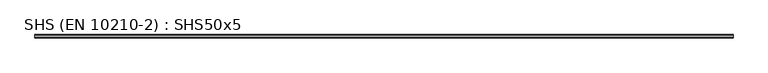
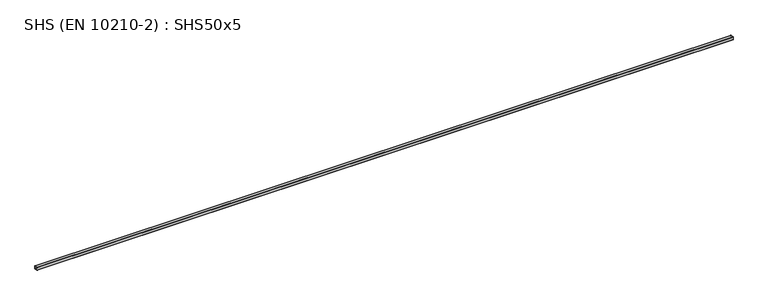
"""IFC4 building model written with IfcOpenShell, lengths in millimetres: beam geometry, SHS (EN 10210-2) : SHS50x5."""

from ifc_helpers import new_model, si_unit, point, frame, frame_2d, origin, place, context, project, spatial, polyline, circle_curve, trimmed, segment, composite_curve, outline, extrude, source, transform, mapped, element, save


def shs_en_10210_2_shs50x5_e16ab194(model_context):
    return source(origin(), model_context, "Body", "SweptSolid", [
        extrude(outline(composite_curve([segment(polyline([(25.0, 17.5), (25.0, -17.5)]), True, "CONTINUOUS"), segment(trimmed(circle_curve(frame_2d((17.5, -17.5)), 7.5), [point((25.0, -17.5))], [point((17.5, -25.0))], False, "CARTESIAN"), True, "CONTINUOUS"), segment(polyline([(17.5, -25.0), (-17.5, -25.0)]), True, "CONTINUOUS"), segment(trimmed(circle_curve(frame_2d((-17.5, -17.5)), 7.5), [point((-17.5, -25.0))], [point((-25.0, -17.5))], False, "CARTESIAN"), True, "CONTINUOUS"), segment(polyline([(-25.0, -17.5), (-25.0, 17.5)]), True, "CONTINUOUS"), segment(trimmed(circle_curve(frame_2d((-17.5, 17.5)), 7.5), [point((-25.0, 17.5))], [point((-17.5, 25.0))], False, "CARTESIAN"), True, "CONTINUOUS"), segment(polyline([(-17.5, 25.0), (17.5, 25.0)]), True, "CONTINUOUS"), segment(trimmed(circle_curve(frame_2d((17.5, 17.5)), 7.5), [point((17.5, 25.0))], [point((25.0, 17.5))], False, "CARTESIAN"), True, "CONTINUOUS")], self_intersect=False), holes=[composite_curve([segment(trimmed(circle_curve(frame_2d((-15.0, 15.0)), 5.0), [point((-15.0, 20.0))], [point((-20.0, 15.0))], True, "CARTESIAN"), True, "CONTINUOUS"), segment(polyline([(-20.0, 15.0), (-20.0, -15.0)]), True, "CONTINUOUS"), segment(trimmed(circle_curve(frame_2d((-15.0, -15.0)), 5.0), [point((-20.0, -15.0))], [point((-15.0, -20.0))], True, "CARTESIAN"), True, "CONTINUOUS"), segment(polyline([(-15.0, -20.0), (15.0, -20.0)]), True, "CONTINUOUS"), segment(trimmed(circle_curve(frame_2d((15.0, -15.0)), 5.0), [point((15.0, -20.0))], [point((20.0, -15.0))], True, "CARTESIAN"), True, "CONTINUOUS"), segment(polyline([(20.0, -15.0), (20.0, 15.0)]), True, "CONTINUOUS"), segment(trimmed(circle_curve(frame_2d((15.0, 15.0)), 5.0), [point((20.0, 15.0))], [point((15.0, 20.0))], True, "CARTESIAN"), True, "CONTINUOUS"), segment(polyline([(15.0, 20.0), (-15.0, 20.0)]), True, "CONTINUOUS")], self_intersect=False)]), frame((-5067.2, 0.0, 0.0), z_axis=(1.0, 0.0, 0.0), x_axis=(0.0, 1.0, 0.0)), (0.0, 0.0, 1.0), 10144.5),
    ])


if __name__ == "__main__":
    model = new_model("IFC4")
    model_context = context("Model", 3, world=origin())
    ifc_project = project(units=[si_unit("LENGTHUNIT", "METRE", prefix="MILLI")], contexts=[model_context])
    site = spatial("IfcSite", under=ifc_project)
    building = spatial("IfcBuilding", under=site)
    placement = place(None, origin())
    shs_en_10210_2_shs50x5_shape = shs_en_10210_2_shs50x5_e16ab194(model_context)
    element("IfcBeam", 1, ObjectType="SHS (EN 10210-2) : SHS50x5", at=placement, inside=building, context=model_context, shape_type="MappedRepresentation", body=[
        mapped(shs_en_10210_2_shs50x5_shape, transform((0.0, 0.0, 0.0), x_axis=(1.0, 0.0, 0.0), y_axis=(0.0, 1.0, 0.0), z_axis=(0.0, 0.0, 1.0))),
    ])
    save(model, "model.ifc")
